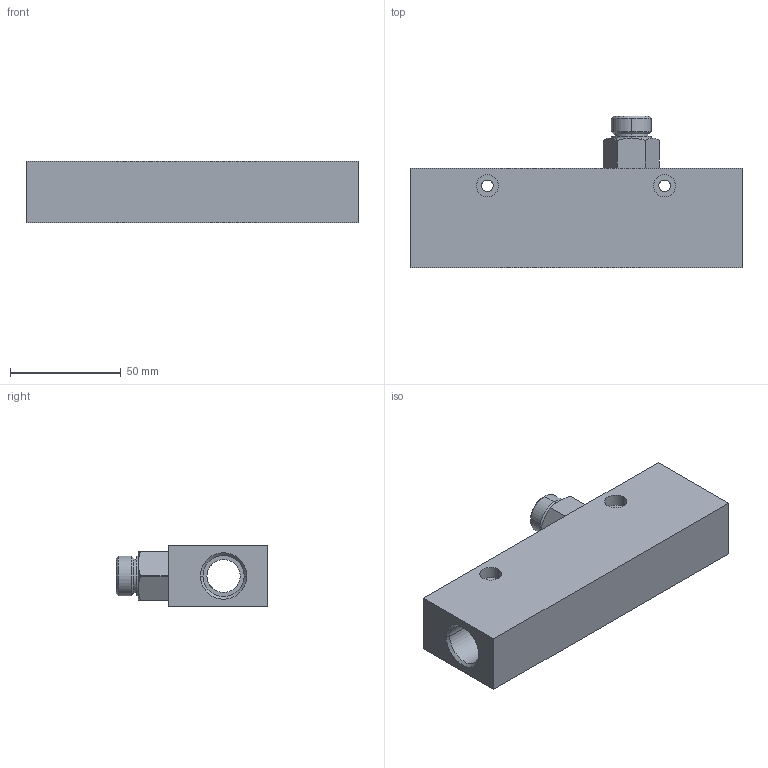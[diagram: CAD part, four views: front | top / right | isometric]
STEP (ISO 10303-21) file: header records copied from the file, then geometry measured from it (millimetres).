
FILE_DESCRIPTION( ( '' ), '1' );
FILE_NAME( '//expscmdclustefs.cadenas.external/client_exchange/iodir/jobs/output/wkb55285190_no0/STEP/E40162_2_03.stp', '2013-03-07T13:57:39', ( '' ), ( '' ), ' ', ' ', ' ' );
FILE_SCHEMA( ( 'CONFIG_CONTROL_DESIGN' ) );
Length unit declared in the file: millimetre
Products named in the file (2): 1; 2
Bounding box: 150 x 68.5 x 28 mm (x, y, z)
Volume: 161215.2 mm3; surface area: 37146.8 mm2
Topology: 2 solids, 2 shells, 86 faces, 198 edges, 127 vertices
Faces by surface type: cylinder 38, plane 26, cone 22
Entity records: 2617 total; most frequent: CARTESIAN_POINT 504, DIRECTION 457, ORIENTED_EDGE 396, EDGE_CURVE 198, AXIS2_PLACEMENT_3D 186, VERTEX_POINT 127, EDGE_LOOP 107, CIRCLE 98
